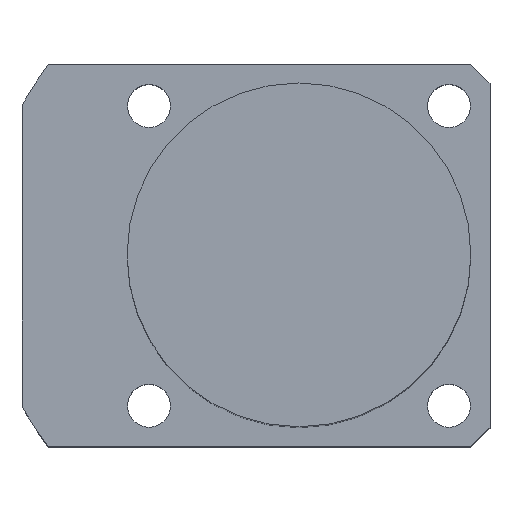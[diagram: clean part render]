
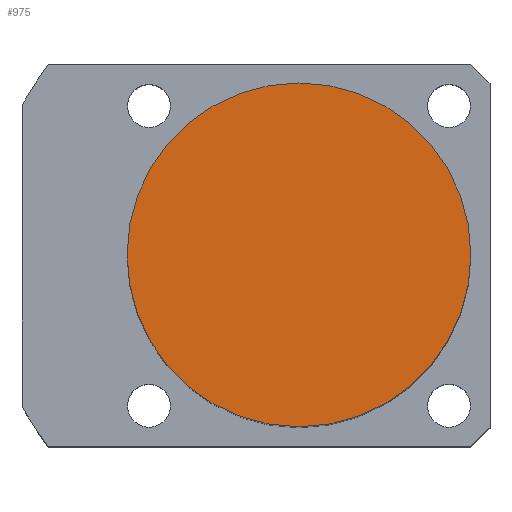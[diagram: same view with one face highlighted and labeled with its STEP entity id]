
A CAD part, top view. The second image highlights one B-rep face of the part: STEP entity #975.
In plain terms, the highlighted planar face has unit normal (0, 0, 1).
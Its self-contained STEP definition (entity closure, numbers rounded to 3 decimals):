
#40 = EDGE_CURVE ( 'NONE', #250, #1671, #1188, .T. ) ;
#140 = EDGE_LOOP ( 'NONE', ( #2000, #2098 ) ) ;
#250 = VERTEX_POINT ( 'NONE', #1459 ) ;
#403 = AXIS2_PLACEMENT_3D ( 'NONE', #1957, #1799, #827 ) ;
#429 = EDGE_CURVE ( 'NONE', #1671, #250, #586, .T. ) ;
#439 = CARTESIAN_POINT ( 'NONE',  ( 0., 0., 68.5 ) ) ;
#586 = CIRCLE ( 'NONE', #2016, 18. ) ;
#796 = FACE_OUTER_BOUND ( 'NONE', #140, .T. ) ;
#827 = DIRECTION ( 'NONE',  ( 1., 0., 0. ) ) ;
#975 = ADVANCED_FACE ( 'NONE', ( #796 ), #1257, .T. ) ;
#1027 = CARTESIAN_POINT ( 'NONE',  ( 0., 0., 68.5 ) ) ;
#1188 = CIRCLE ( 'NONE', #403, 18. ) ;
#1257 = PLANE ( 'NONE',  #1428 ) ;
#1354 = DIRECTION ( 'NONE',  ( 1., 0., 0. ) ) ;
#1403 = DIRECTION ( 'NONE',  ( 1., 0., 0. ) ) ;
#1428 = AXIS2_PLACEMENT_3D ( 'NONE', #439, #1578, #1403 ) ;
#1459 = CARTESIAN_POINT ( 'NONE',  ( -18., 0., 68.5 ) ) ;
#1519 = DIRECTION ( 'NONE',  ( 0., 0., 1. ) ) ;
#1578 = DIRECTION ( 'NONE',  ( 0., 0., 1. ) ) ;
#1671 = VERTEX_POINT ( 'NONE', #1996 ) ;
#1799 = DIRECTION ( 'NONE',  ( 0., 0., 1. ) ) ;
#1957 = CARTESIAN_POINT ( 'NONE',  ( 0., 0., 68.5 ) ) ;
#1996 = CARTESIAN_POINT ( 'NONE',  ( 18., 0., 68.5 ) ) ;
#2000 = ORIENTED_EDGE ( 'NONE', *, *, #40, .T. ) ;
#2016 = AXIS2_PLACEMENT_3D ( 'NONE', #1027, #1519, #1354 ) ;
#2098 = ORIENTED_EDGE ( 'NONE', *, *, #429, .T. ) ;
